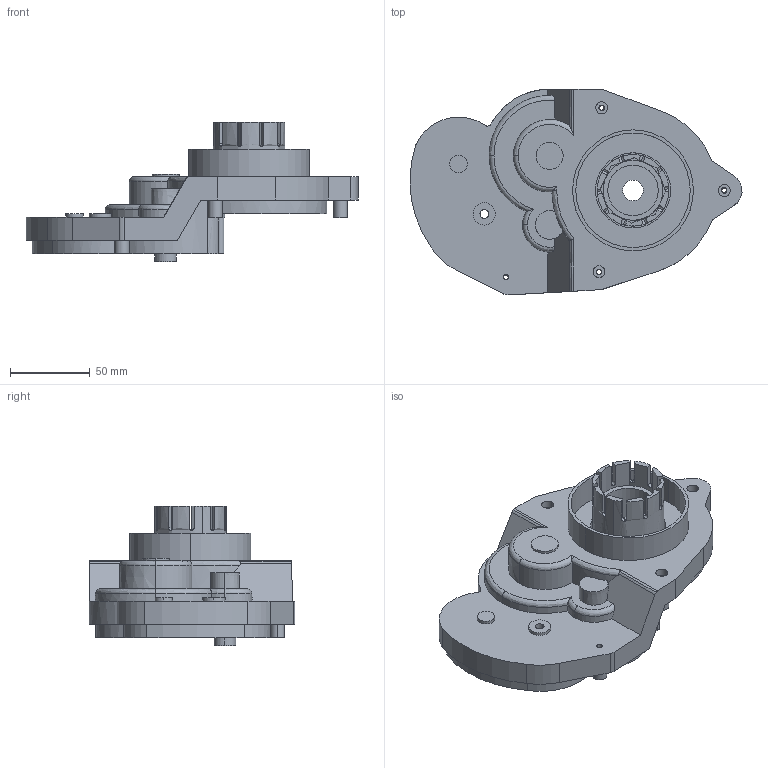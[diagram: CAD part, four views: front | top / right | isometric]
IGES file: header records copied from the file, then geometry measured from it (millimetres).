
Global section: file name: C:\Documents and Settings\Administrator\Desktop\Transfer Temp\fptransmission.igs; native system: AutoDesk Inventor R2.0 ; preprocessor: AutoDesk Inventor Iges Exporter R2.0; author: No Author specified; organization: No Organization specified; date: 20011208.223910; units: millimetre
Bounding box: 208.76 x 129.46 x 87.5 mm (x, y, z)
Surface area: 178548 mm2 (no closed solid volume)
Topology: 0 solids, 0 shells, 337 faces, 1812 edges, 1812 vertices
Faces by surface type: bspline 172, revolution 165
